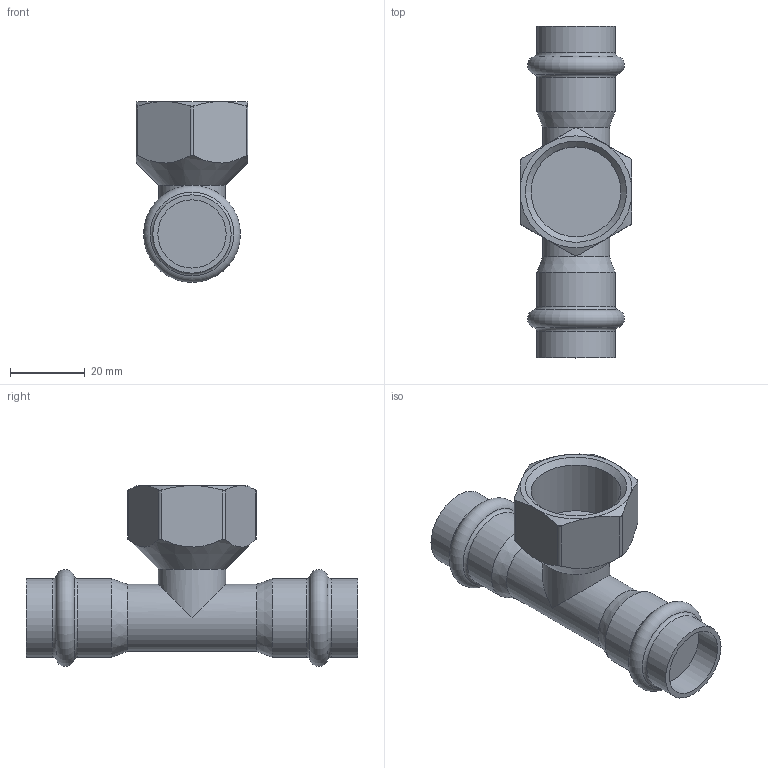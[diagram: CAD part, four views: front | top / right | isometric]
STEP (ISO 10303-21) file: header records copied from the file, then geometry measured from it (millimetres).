
FILE_DESCRIPTION(('STEP AP203'), '1');
FILE_NAME('VTi.932.I.180518', '', ('UNSPECIFIED'), ('UNSPECIFIED'), 'C3D Converter', 'C3D Toolkit', '');
FILE_SCHEMA(('CONFIG_CONTROL_DESIGN'));
Length unit declared in the file: millimetre
Bounding box: 30 x 89 x 48.5 mm (x, y, z)
Volume: 34230.6 mm3; surface area: 11891 mm2
Topology: 1 solids, 1 shells, 42 faces, 93 edges, 56 vertices
Faces by surface type: cylinder 15, plane 12, cone 9, torus 6
Full cylindrical faces by diameter (mm): 18 x2, 18.3 x2, 21 x4, 24.118 x1
Entity records: 2121 total; most frequent: CARTESIAN_POINT 1285, DIRECTION 152, ORIENTED_EDGE 146, EDGE_CURVE 73, AXIS2_PLACEMENT_3D 70, EDGE_LOOP 65, VERTEX_POINT 56, ADVANCED_FACE 42
